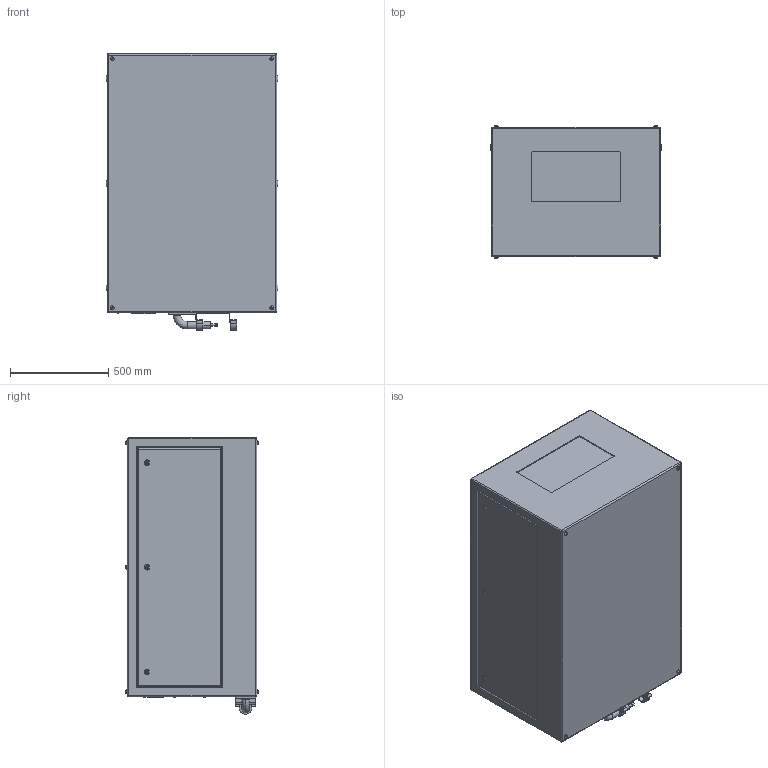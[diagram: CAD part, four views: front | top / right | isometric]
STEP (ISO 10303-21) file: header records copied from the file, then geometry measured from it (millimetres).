
FILE_DESCRIPTION (( 'STEP AP214' ), '1' );
FILE_NAME ('Oasis 59.210.L R02.STEP', '2022-09-12T23:38:35', ( '' ), ( '' ), 'SwSTEP 2.0', 'SolidWorks 2020', '' );
FILE_SCHEMA (( 'AUTOMOTIVE_DESIGN' ));
Length unit declared in the file: inch
Products named in the file (1): Oasis 59.210.L R02
Bounding box: 876.3 x 677.67 x 1409.7 mm (x, y, z)
Volume: 752581074.2 mm3; surface area: 5649841.9 mm2
Topology: 3 solids, 9 shells, 510 faces, 1165 edges, 738 vertices
Faces by surface type: plane 279, cylinder 177, torus 46, bspline 8
Entity records: 19431 total; most frequent: CARTESIAN_POINT 2926, DIRECTION 2539, ORIENTED_EDGE 2314, EDGE_CURVE 1157, AXIS2_PLACEMENT_3D 911, VERTEX_POINT 738, LINE 717, VECTOR 717
